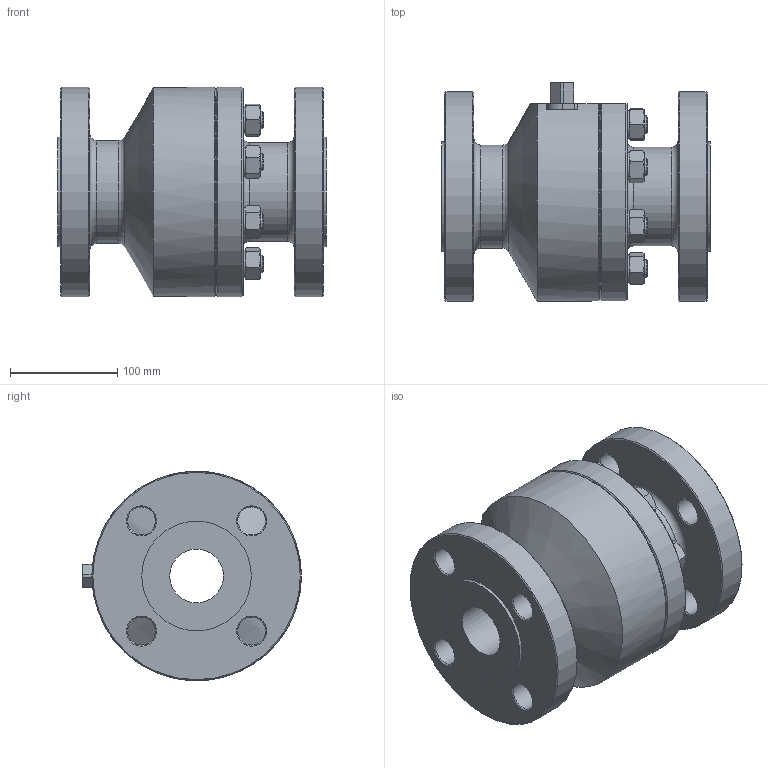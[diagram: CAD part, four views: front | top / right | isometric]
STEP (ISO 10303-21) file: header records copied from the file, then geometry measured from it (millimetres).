
FILE_DESCRIPTION((''),'2;1');
FILE_NAME('C:\Users\Bartek\Desktop\Nowy folder (2)\Nowy folder (22)\WK5b\WK5b DN50 PN100_Substitute_1.stp','2024-09-17T08:41:08',('Bartek'),(''),'Autodesk Inventor 2012','Autodesk Inventor 2012','');
FILE_SCHEMA(('AUTOMOTIVE_DESIGN { 1 0 10303 214 1 1 1 1 }'));
Length unit declared in the file: millimetre
Products named in the file (1): WK5b DN50 PN100_Substitute_1
Bounding box: 250 x 203.5 x 195 mm (x, y, z)
Volume: 4593041.8 mm3; surface area: 357429.2 mm2
Topology: 1 solids, 1 shells, 270 faces, 595 edges, 359 vertices
Faces by surface type: cone 128, plane 96, cylinder 42, torus 4
Full cylindrical faces by diameter (mm): 16 x8, 26 x16, 50 x1, 92 x1, 96 x1, 102 x2, 110 x1, 195 x2
Entity records: 7003 total; most frequent: CARTESIAN_POINT 1524, DIRECTION 1075, ORIENTED_EDGE 1026, EDGE_CURVE 513, AXIS2_PLACEMENT_3D 490, EDGE_LOOP 385, VERTEX_POINT 342, STYLED_ITEM 271
